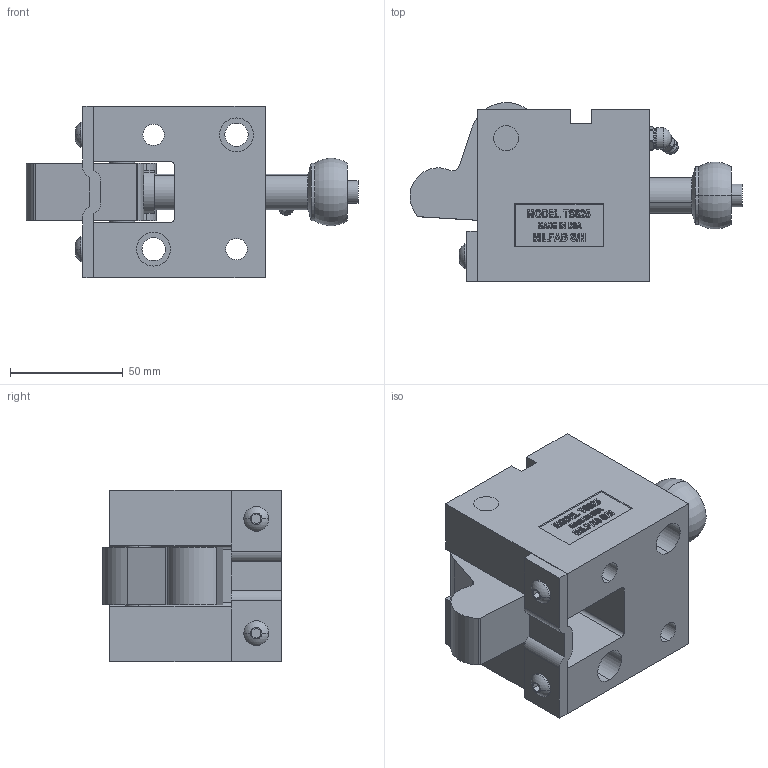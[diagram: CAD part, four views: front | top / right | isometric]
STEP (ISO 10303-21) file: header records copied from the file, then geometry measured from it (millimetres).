
FILE_DESCRIPTION (( 'STEP AP214' ), '1' );
FILE_NAME ('TS62545-C.STEP', '2014-01-05T21:13:26', ( 'user' ), ( '' ), 'SwSTEP 2.0', 'SolidWorks 2009', '' );
FILE_SCHEMA (( 'AUTOMOTIVE_DESIGN' ));
Length unit declared in the file: inch
Products named in the file (11): 1-4 SCREW; 625-I-STRAP; S625-PUNCH; 625 STRIPPER CLOSED; I-625-POINT; TS625-BODY; 625 PIVOT PIN; 625-WASHER; TS62545-C; GREASE ZERK; 625-OFFSET TRIGGER
Assembly tree (11 placements, depth 2):
  TS62545-C
    625 PIVOT PIN
    625-OFFSET TRIGGER
    I-625-POINT
    1-4 SCREW  x2
    GREASE ZERK
    S625-PUNCH
    TS625-BODY
    625-I-STRAP
    625 STRIPPER CLOSED
    625-WASHER
Bounding box: 147.5 x 79.37 x 76.2 mm (x, y, z)
Volume: 409764.4 mm3; surface area: 79349.2 mm2
Topology: 11 solids, 11 shells, 582 faces, 1505 edges, 988 vertices
Faces by surface type: plane 334, bspline 104, cylinder 88, cone 30, torus 22, sphere 4
Entity records: 23466 total; most frequent: CARTESIAN_POINT 9828, ORIENTED_EDGE 2922, DIRECTION 2337, EDGE_CURVE 1461, VERTEX_POINT 962, VECTOR 953, LINE 953, AXIS2_PLACEMENT_3D 692
